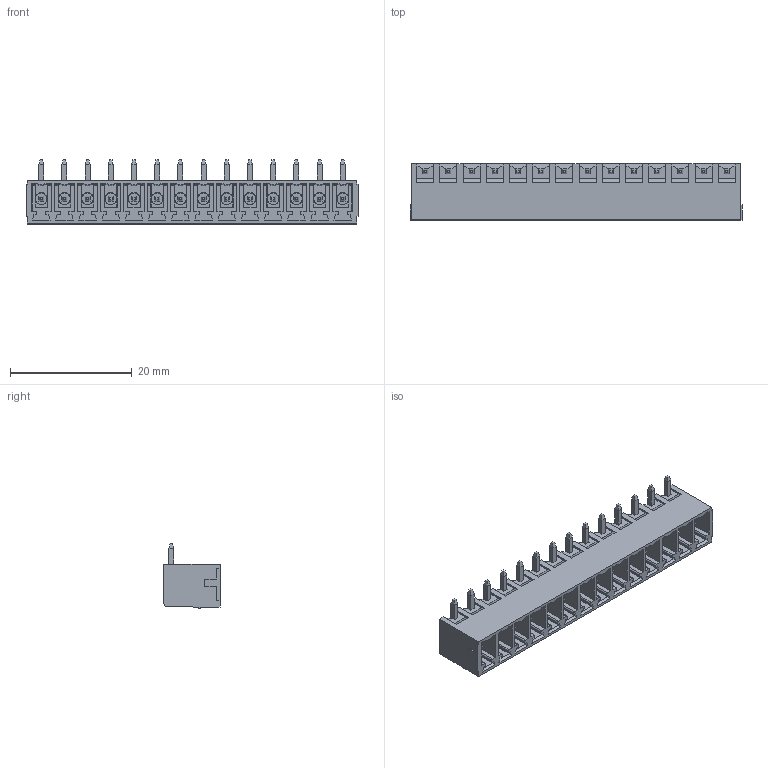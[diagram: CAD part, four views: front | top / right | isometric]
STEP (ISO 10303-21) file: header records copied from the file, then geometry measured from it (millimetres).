
FILE_DESCRIPTION(('FreeCAD Model'),'2;1');
FILE_NAME('Open CASCADE Shape Model','2023-05-24T16:24:37',('Author'),( ''),'Open CASCADE STEP processor 7.6','FreeCAD','Unknown');
FILE_SCHEMA(('AUTOMOTIVE_DESIGN { 1 0 10303 214 1 1 1 1 }'));
Products named in the file (1): BR7MN2-14
Bounding box: 54.53 x 9.2 x 10.6 mm (x, y, z)
Volume: 1650.1 mm3; surface area: 4978.1 mm2
Topology: 1 solids, 15 shells, 1203 faces, 3085 edges, 1940 vertices
Faces by surface type: plane 1048, cylinder 85, cone 42, sphere 28
Entity records: 76957 total; most frequent: CARTESIAN_POINT 14609, DIRECTION 11684, LINE 8495, VECTOR 8495, ORIENTED_EDGE 6114, PCURVE 6114, DEFINITIONAL_REPRESENTATION 6114, EDGE_CURVE 3057
